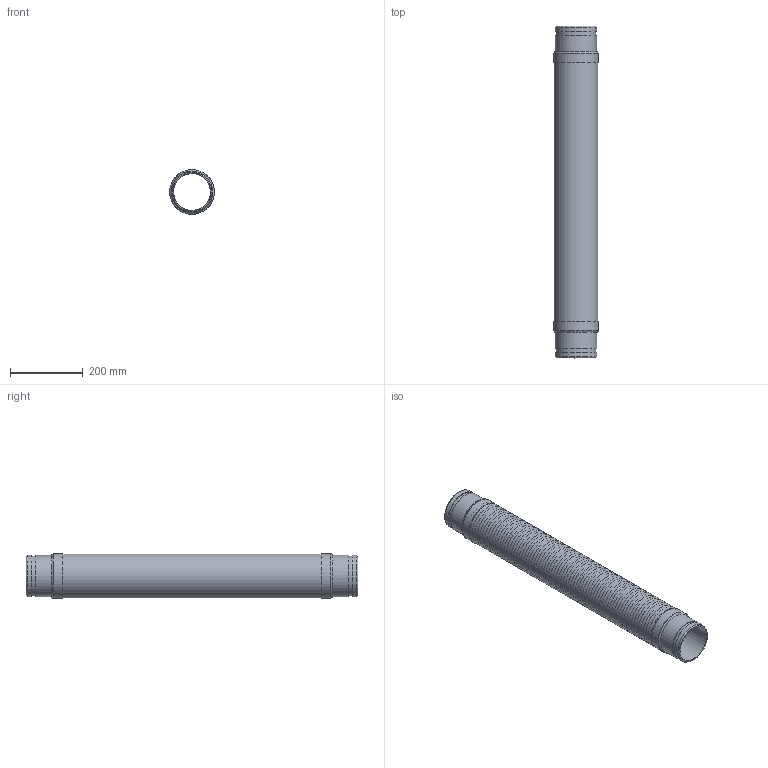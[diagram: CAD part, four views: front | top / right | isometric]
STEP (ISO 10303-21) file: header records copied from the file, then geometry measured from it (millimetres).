
FILE_DESCRIPTION((''),'2;1');
FILE_NAME('C:\2012_Work\Designs\GWN\GWN-4x36.stp','2013-08-13T12:57:56',('KShiels'),(''),'Autodesk Inventor 2012','Autodesk Inventor 2012','');
FILE_SCHEMA(('AUTOMOTIVE_DESIGN { 1 0 10303 214 1 1 1 1 }'));
Length unit declared in the file: inch
Products named in the file (6): GWN-4x36; GWN-4x36_Welds; A-30112-4_4in_GN-BRAID; A-30112-4_4in_GN-BELLOWS; A-30112-4_4in_GN-BRAID-COLLAR; A-30112-4_4in_GN-GROOVED_NIPPLE
Assembly tree (7 placements, depth 2):
  GWN-4x36
    GWN-4x36_Welds
    A-30112-4_4in_GN-BRAID
    A-30112-4_4in_GN-BELLOWS
    A-30112-4_4in_GN-BRAID-COLLAR  x2
    A-30112-4_4in_GN-GROOVED_NIPPLE  x2
Bounding box: 123.08 x 914.4 x 123.08 mm (x, y, z)
Volume: 708472.6 mm3; surface area: 2020579.5 mm2
Topology: 8 solids, 8 shells, 680 faces, 1030 edges, 688 vertices
Faces by surface type: plane 338, torus 322, cylinder 16, bspline 2, cone 2
Full cylindrical faces by diameter (mm): 102.26 x2, 110.084 x2, 114.3 x6, 119.888 x1, 120.701 x3, 123.082 x2
Entity records: 14179 total; most frequent: DIRECTION 2682, CARTESIAN_POINT 2612, ORIENTED_EDGE 1346, AXIS2_PLACEMENT_3D 1341, EDGE_LOOP 1332, EDGE_CURVE 673, VERTEX_POINT 671, FACE_OUTER_BOUND 667
